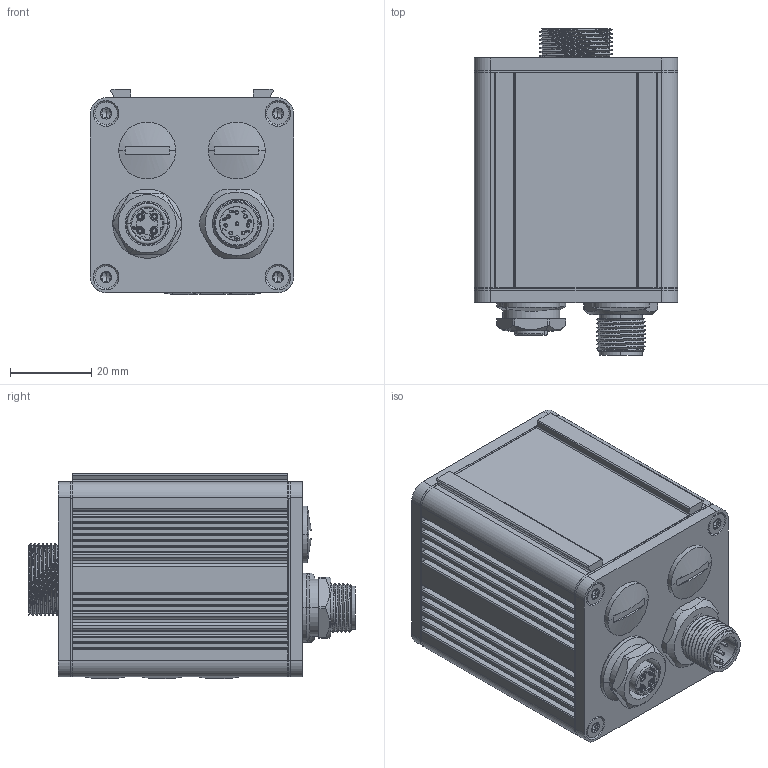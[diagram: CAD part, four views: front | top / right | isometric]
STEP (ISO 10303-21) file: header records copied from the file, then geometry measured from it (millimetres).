
FILE_DESCRIPTION((''),'2;1');
FILE_NAME('0000213132_ASM','2019-01-31T',('11000065'),(''),'CREO PARAMETRIC BY PTC INC, 2018070','CREO PARAMETRIC BY PTC INC, 2018070','');
FILE_SCHEMA(('AUTOMOTIVE_DESIGN { 1 0 10303 214 1 1 1 1 }'));
Products named in the file (12): 0000130273; 0000130252; 0000130274; 0000130272; 0000130255; 0000130262; 0000130276_ASM; 0000130371; 0000212282; 0000213131; 0000130265; 0000213132_ASM
Assembly tree (20 placements, depth 3):
  0000213132_ASM
    0000130273  x8
    0000130276_ASM
      0000130252
      0000130274  x2
      0000130272
      0000130255
      0000130262
    0000130371
    0000212282
    0000213131  x2
    0000130265
Bounding box: 50 x 80.31 x 50.4 mm (x, y, z)
Volume: 52043.5 mm3; surface area: 60676.1 mm2
Topology: 19 solids, 43 shells, 4760 faces, 13266 edges, 8781 vertices
Faces by surface type: plane 3145, cylinder 1047, cone 272, extrusion 130, torus 103, bspline 39, sphere 24
Entity records: 204555 total; most frequent: CARTESIAN_POINT 49033, ORIENTED_EDGE 24314, DIRECTION 22445, PRESENTATION_STYLE_ASSIGNMENT 12667, STYLED_ITEM 12167, CURVE_STYLE 12157, EDGE_CURVE 12157, VECTOR 9401
